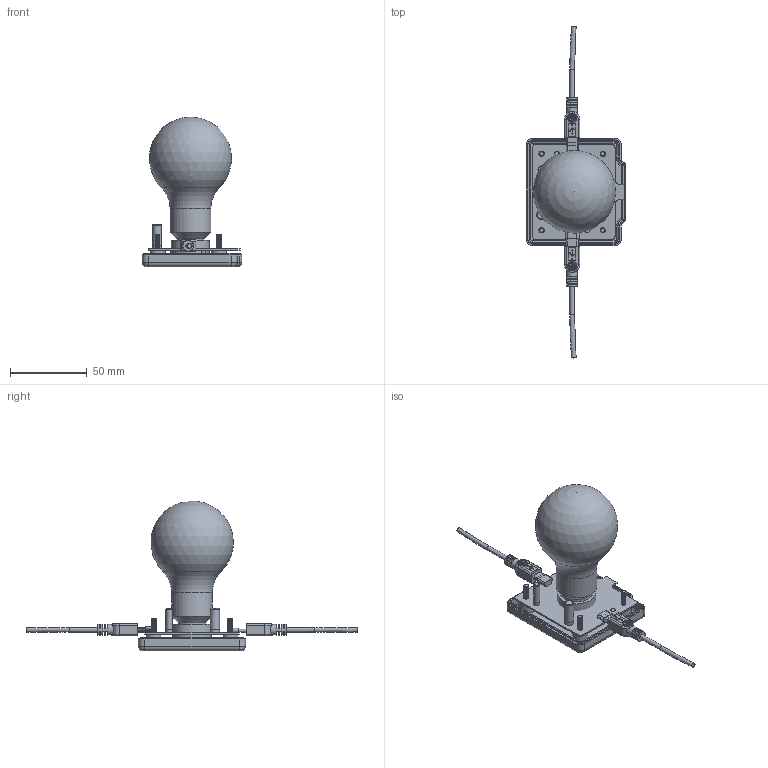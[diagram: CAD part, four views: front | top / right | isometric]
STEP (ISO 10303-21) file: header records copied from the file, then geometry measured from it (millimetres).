
FILE_DESCRIPTION(/* description */ (''),/* implementation_level */ '2;1');
FILE_NAME(/* name */ '8.stp',/* time_stamp */ '2017-05-18T00:51:45+08:00',/* author */ (''),/* organization */ (''),/* preprocessor_version */ 'ST-DEVELOPER v15',/* originating_system */ 'SIEMENS PLM Software NX 8.5',/* authorisation */ '');
FILE_SCHEMA (('AUTOMOTIVE_DESIGN { 1 0 10303 214 3 1 1 1 }'));
Length unit declared in the file: millimetre
Products named in the file (1): Admi1DBCDAC23voy
Bounding box: 65 x 217 x 98 mm (x, y, z)
Volume: 126264.7 mm3; surface area: 41291.4 mm2
Topology: 14 solids, 14 shells, 615 faces, 1503 edges, 982 vertices
Faces by surface type: plane 336, cylinder 210, bspline 32, torus 18, cone 14, sphere 5
Full cylindrical faces by diameter (mm): 2 x2, 3 x5, 3.5 x7, 4 x4, 6 x2, 6.6 x4, 7 x2, 18 x1, 18.183 x1, 21 x1, 25 x1, 26.609 x1, 28 x1
Entity records: 52089 total; most frequent: CARTESIAN_POINT 37486, DIRECTION 3020, ORIENTED_EDGE 2802, EDGE_CURVE 1401, AXIS2_PLACEMENT_3D 1121, VERTEX_POINT 943, LINE 778, VECTOR 778
